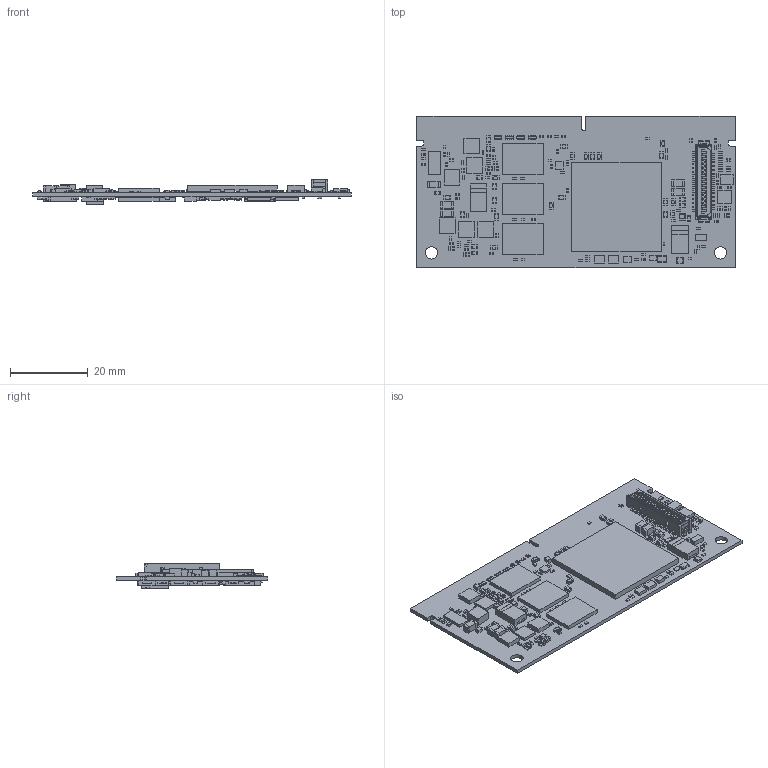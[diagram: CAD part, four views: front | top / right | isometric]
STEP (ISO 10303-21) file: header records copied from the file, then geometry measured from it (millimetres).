
FILE_DESCRIPTION(('Open CASCADE Model'),'2;1');
FILE_NAME('Open CASCADE Shape Model','2015-06-05T09:17:15',('Author'),( 'Open CASCADE'),'Open CASCADE STEP processor 6.8','Open CASCADE 6.8' ,'Unknown');
FILE_SCHEMA(('AUTOMOTIVE_DESIGN { 1 0 10303 214 1 1 1 1 }'));
Length unit declared in the file: millimetre
Products named in the file (507): PCB; Board; C80; -1754245304; Extruded; -1754245152; -1754245000; C76; -1754239072; R105; -1754244088; -1754243936; -1754244240; R104; C92; -1754242416; -1754242264; R77; 2068172312; 2068172464; 2068172616; U25; -1754241656; RA16; -1754243632; -1754243480; -1754243328; -1754243176; RA15; RA14; 2068171400; 2068171552; 2068171704; 2068171856; RA13; RA12; RA11; RA10; RA9; RA8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
Assembly tree (1716 placements, depth 4):
  PCB
    Board
    C80
      -1754245304
        Extruded
      -1754245152  x2
        Extruded
      -1754245000
        Extruded
    C76
      -1754239072
        Extruded
      -1754245152  x2
        Extruded
      -1754245000
        Extruded
    R105
      -1754244088  x2
        Extruded
      -1754243936
        Extruded
      -1754244240
        Extruded
    R104
      -1754244088  x2
        Extruded
      -1754243936
        Extruded
      -1754244240
        Extruded
    C92
      -1754242416  x2
        Extruded
      -1754242264
        Extruded
    R77
      2068172312  x2
        Extruded
      2068172464
        Extruded
      2068172616
        Extruded
    U25
      -1754241656
        Extruded
    RA16
      -1754243632  x4
        Extruded
      -1754243480  x4
        Extruded
      -1754243328
        Extruded
      -1754243176
        Extruded
    RA15
      -1754243632  x4
        Extruded
      -1754243480  x4
        Extruded
      -1754243328
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Bounding box: 82 x 39 x 6.28 mm (x, y, z)
Volume: 5793.6 mm3; surface area: 14007.7 mm2
Topology: 1308 solids, 1308 shells, 9281 faces, 19930 edges, 13204 vertices
Faces by surface type: plane 8653, cylinder 370, bspline 200, sphere 48, torus 6, cone 4
Full cylindrical faces by diameter (mm): 1.35 x2, 3.175 x2
Entity records: 204231 total; most frequent: CARTESIAN_POINT 85248, DIRECTION 19778, LINE 10746, VECTOR 10746, ORIENTED_EDGE 10298, PCURVE 10298, DEFINITIONAL_REPRESENTATION 10298, EDGE_CURVE 5149
